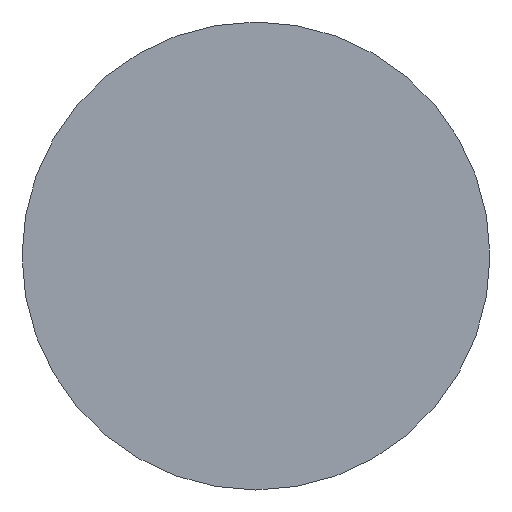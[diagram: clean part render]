
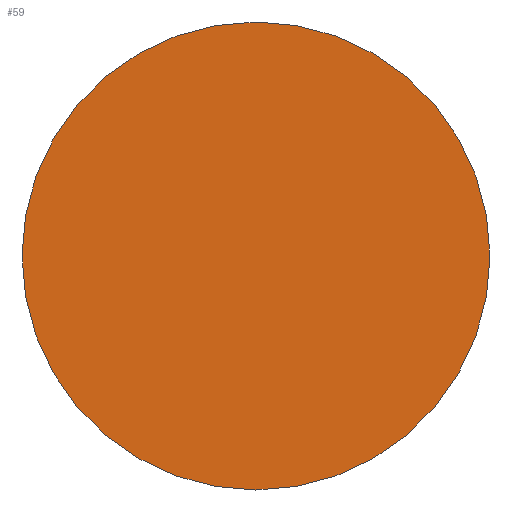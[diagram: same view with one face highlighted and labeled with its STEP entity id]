
A CAD part, front view. The second image highlights one B-rep face of the part: STEP entity #59.
In plain terms, the highlighted planar face has unit normal (0, -1, 0) as drawn and (0, 0, -1) by its records, which use the part's own axes.
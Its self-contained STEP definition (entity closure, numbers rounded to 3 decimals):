
#23=PLANE('',#82);
#29=FACE_OUTER_BOUND('',#32,.T.);
#32=EDGE_LOOP('',(#55));
#36=CIRCLE('',#80,21.);
#39=VERTEX_POINT('',#118);
#44=EDGE_CURVE('',#39,#39,#36,.T.);
#55=ORIENTED_EDGE('',*,*,#44,.T.);
#59=ADVANCED_FACE('',(#29),#23,.F.);
#80=AXIS2_PLACEMENT_3D('',#120,#99,#100);
#82=AXIS2_PLACEMENT_3D('',#124,#104,#105);
#99=DIRECTION('center_axis',(0.,0.,
-1.));
#100=DIRECTION('ref_axis',(1.,0.,0.));
#104=DIRECTION('center_axis',(0.,0.,
1.));
#105=DIRECTION('ref_axis',(1.,0.,0.));
#118=CARTESIAN_POINT('',(-0.491,-92.733,-23.631));
#120=CARTESIAN_POINT('Origin',(-0.5,-71.733,-23.631));
#124=CARTESIAN_POINT('Origin',(-0.5,-71.733,-23.631));
